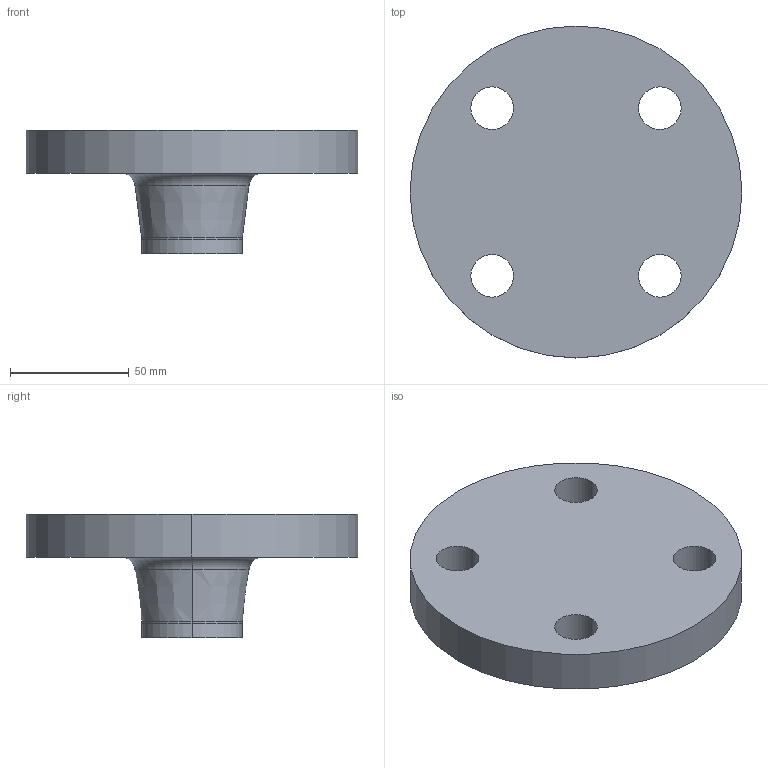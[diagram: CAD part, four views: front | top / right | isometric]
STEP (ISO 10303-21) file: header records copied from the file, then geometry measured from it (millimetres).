
FILE_DESCRIPTION (( 'STEP AP214' ), '1' );
FILE_NAME ('PN40 DN32 Type 21(ii) - Type A Face.STEP', '2018-12-29T23:45:03', ( '' ), ( '' ), 'SwSTEP 2.0', 'SolidWorks 2019', '' );
FILE_SCHEMA (( 'AUTOMOTIVE_DESIGN' ));
Length unit declared in the file: millimetre
Products named in the file (1): PN40 DN32 Type 21(ii) - Type A Face
Bounding box: 140 x 140 x 52 mm (x, y, z)
Volume: 314520.9 mm3; surface area: 44816.8 mm2
Topology: 1 solids, 1 shells, 21 faces, 48 edges, 30 vertices
Faces by surface type: cylinder 12, torus 4, plane 3, cone 2
Entity records: 658 total; most frequent: DIRECTION 126, CARTESIAN_POINT 100, ORIENTED_EDGE 96, AXIS2_PLACEMENT_3D 56, EDGE_CURVE 48, CIRCLE 34, VERTEX_POINT 30, EDGE_LOOP 30
